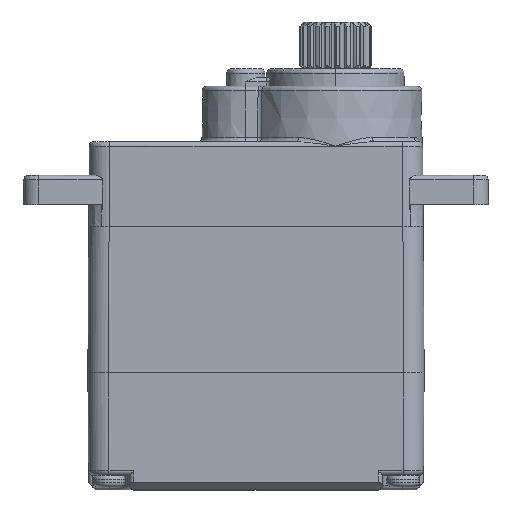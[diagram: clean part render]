
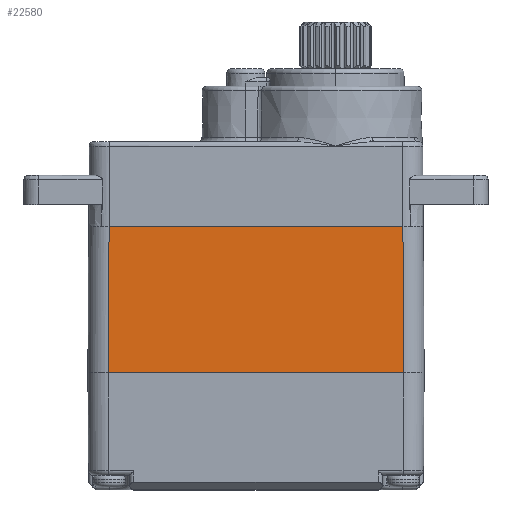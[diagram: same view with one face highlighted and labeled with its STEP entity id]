
A CAD part, top view. The second image highlights one B-rep face of the part: STEP entity #22580.
In plain terms, the highlighted planar face has unit normal (0, 0.005, 1).
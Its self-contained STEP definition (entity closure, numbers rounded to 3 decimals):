
#905=CARTESIAN_POINT('',(10.05,0.,6.));
#2305=CARTESIAN_POINT('',(-10.05,0.,
6.));
#2406=DIRECTION('',(1.,0.,0.));
#2407=VECTOR('',#2406,20.1);
#2408=CARTESIAN_POINT('',(-10.05,0.,
6.));
#2409=LINE('',#2408,#2407);
#2441=DIRECTION('',(0.005,1.,-0.005));
#2442=VECTOR('',#2441,10.);
#2443=CARTESIAN_POINT('',(-10.1,-10.,6.05));
#2444=LINE('',#2443,#2442);
#2448=DIRECTION('',(0.005,-1.,0.005));
#2449=VECTOR('',#2448,10.);
#2450=CARTESIAN_POINT('',(10.05,0.,6.));
#2451=LINE('',#2450,#2449);
#2455=DIRECTION('',(1.,0.,0.));
#2456=VECTOR('',#2455,20.2);
#2457=CARTESIAN_POINT('',(-10.1,-10.,6.05));
#2458=LINE('',#2457,#2456);
#18292=VERTEX_POINT('',#2305);
#18306=VERTEX_POINT('',#905);
#18321=CARTESIAN_POINT('',(-10.1,-10.,6.05));
#18322=VERTEX_POINT('',#18321);
#18333=CARTESIAN_POINT('',(10.1,-10.,6.05));
#18334=VERTEX_POINT('',#18333);
#22568=CARTESIAN_POINT('',(0.,-5.,6.025));
#22569=DIRECTION('',(0.,0.005,1.));
#22570=DIRECTION('',(1.,0.,0.));
#22571=AXIS2_PLACEMENT_3D('',#22568,#22569,#22570);
#22572=PLANE('',#22571);
#22573=ORIENTED_EDGE('',*,*,#20304,.T.);
#22574=ORIENTED_EDGE('',*,*,#22559,.T.);
#22575=ORIENTED_EDGE('',*,*,#21428,.T.);
#22577=ORIENTED_EDGE('',*,*,#22576,.F.);
#22578=EDGE_LOOP('',(#22573,#22574,#22575,#22577));
#22579=FACE_OUTER_BOUND('',#22578,.F.);
#20304=EDGE_CURVE('',#18322,#18292,#2444,.T.);
#21428=EDGE_CURVE('',#18306,#18334,#2451,.T.);
#22559=EDGE_CURVE('',#18292,#18306,#2409,.T.);
#22576=EDGE_CURVE('',#18322,#18334,#2458,.T.);
#22580=ADVANCED_FACE('',(#22579),#22572,.T.);
